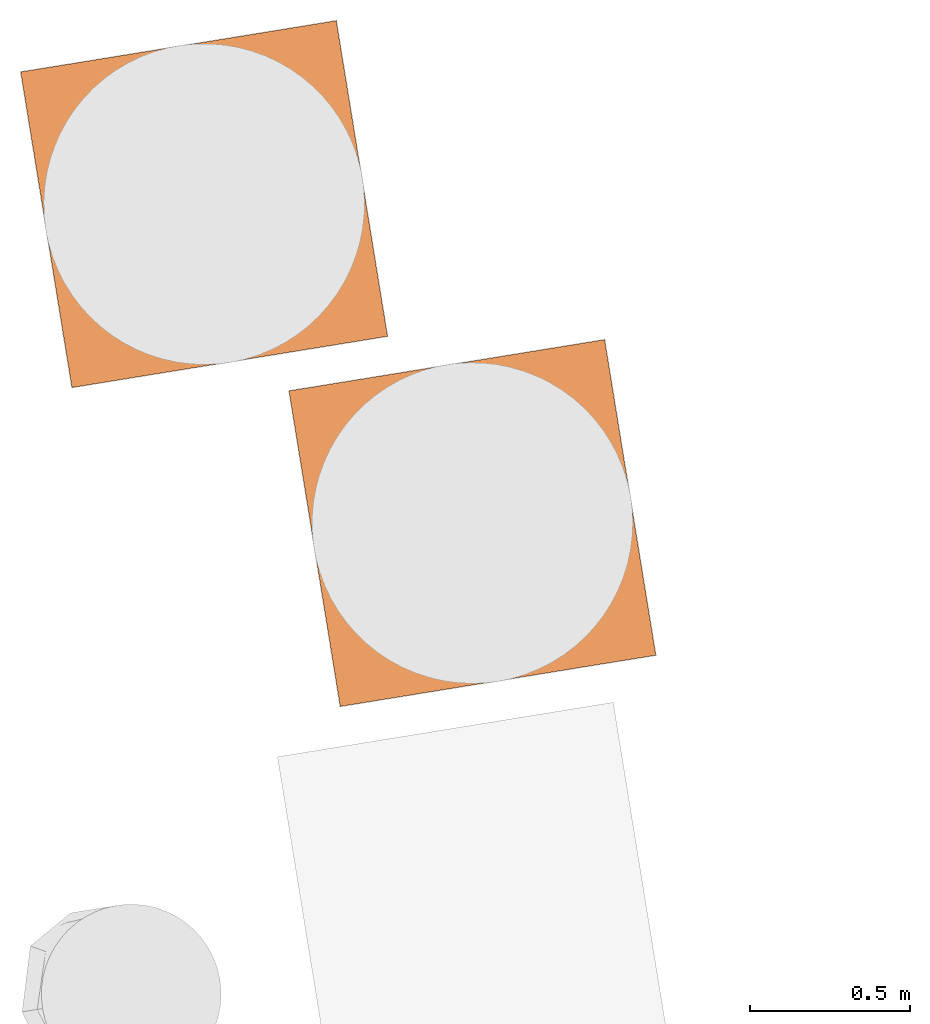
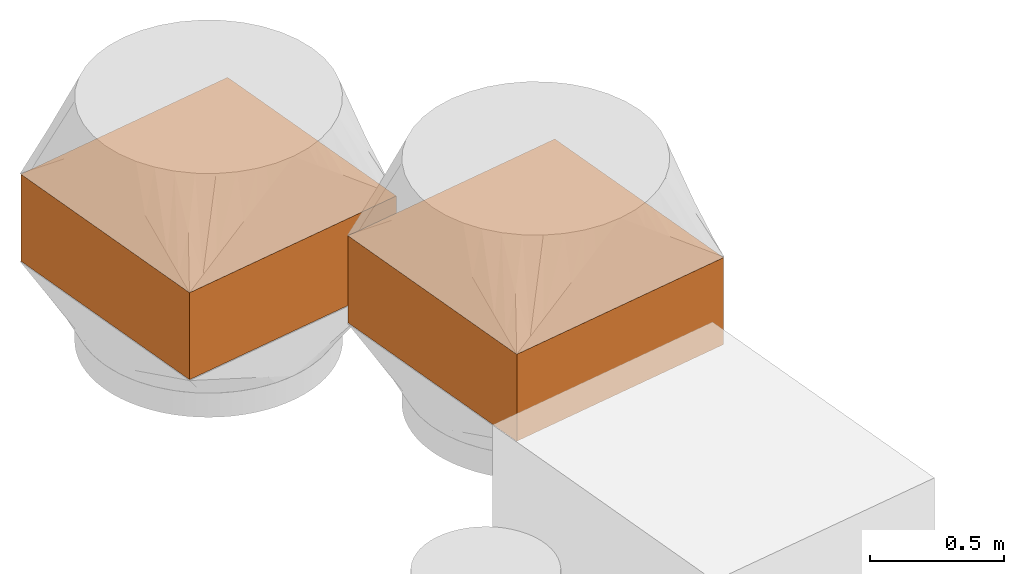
# One storey, part 6 of 6: 2 proxies.
"""IFC2X3 building model written with IfcOpenShell, lengths in millimetres."""

from ifc_helpers import new_model, entity, si_unit, converted_unit, derived_unit, direction, frame, origin, origin_with_axes, origin_2d_with_axis, place, context, subcontext, project, spatial, rectangle, extrude, source, transform, mapped, material, type_object, element, save


model = new_model("IFC2X3")

# Units and contexts
model_context = context("Model", 3, precision=0.01, world=origin(), true_north=direction((6.12323399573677e-17, 1.0)))
plan_context = context("Plan", 3, precision=1e-05, world=origin_with_axes())
body_context = subcontext(model_context, "Body", "Model", "MODEL_VIEW")
ifc_project = project(units=[converted_unit("PLANEANGLEUNIT", "DEGREE", entity("IfcPositiveLengthMeasure", 0.0174532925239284), si_unit("PLANEANGLEUNIT", "RADIAN"), dimensions=[0, 0, 0, 0, 0, 0, 0]), si_unit("AREAUNIT", "SQUARE_METRE"), si_unit("LENGTHUNIT", "METRE", prefix="MILLI"), si_unit("MASSUNIT", "GRAM", prefix="KILO"), si_unit("POWERUNIT", "WATT"), si_unit("PRESSUREUNIT", "PASCAL", prefix="KILO"), si_unit("FORCEUNIT", "NEWTON", prefix="KILO"), si_unit("ELECTRICVOLTAGEUNIT", "VOLT"), si_unit("ELECTRICCURRENTUNIT", "AMPERE"), si_unit("THERMODYNAMICTEMPERATUREUNIT", "DEGREE_CELSIUS"), si_unit("TIMEUNIT", "SECOND"), si_unit("VOLUMEUNIT", "CUBIC_METRE"), derived_unit("LINEARVELOCITYUNIT", [(si_unit("LENGTHUNIT", "METRE"), 1), (si_unit("TIMEUNIT", "SECOND"), -1)]), derived_unit("VOLUMETRICFLOWRATEUNIT", [(si_unit("VOLUMEUNIT", "CUBIC_METRE"), 1), (si_unit("TIMEUNIT", "SECOND"), -1)]), derived_unit("THERMALTRANSMITTANCEUNIT", [(si_unit("POWERUNIT", "WATT"), 1), (si_unit("THERMODYNAMICTEMPERATUREUNIT", "KELVIN"), -1), (si_unit("AREAUNIT", "SQUARE_METRE"), -1)]), derived_unit("SOUNDPRESSUREUNIT", [(si_unit("PRESSUREUNIT", "PASCAL"), 1)])], contexts=[model_context, plan_context])

# Site, building, storey
site_placement = place(None, frame((-0.00071070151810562, 0.00438415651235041, 0.0), z_axis=(0.0, 0.0, 1.0), x_axis=(-0.160236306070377, 0.987078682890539, 0.0)))
site = spatial("IfcSite", under=ifc_project, at=site_placement, Name="Default", CompositionType="ELEMENT")
building_placement = place(site_placement, origin_with_axes())
building = spatial("IfcBuilding", under=site, at=building_placement, CompositionType="ELEMENT")
storey_placement = place(building_placement, frame((0.0, 0.0, 48160.0), z_axis=(0.0, 0.0, 1.0), x_axis=(1.0, 0.0, 0.0)))
storey = spatial("IfcBuildingStorey", under=building, at=storey_placement, Name="Nivå C", CompositionType="ELEMENT", Elevation=48160.0)

# Proxies
ifc_material = material(Name="<Unnamed>")
building_element_proxy_type = type_object("IfcBuildingElementProxyType", Name="BRANNSPJELD - 1 - SZ010T:BRANNSPJELD -R E120-1000-1000 - SZ010T", PredefinedType="NOTDEFINED", material=ifc_material)
shared_shape = source(origin(), body_context, "Body", "SweptSolid", [
    extrude(rectangle(XDim=995.999999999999, YDim=396.0, at=origin_2d_with_axis()), frame((0.0, 0.0, -498.0), z_axis=(0.0, 0.0, 1.0), x_axis=(0.0, 1.0, 0.0)), (0.0, 0.0, 1.0), 995.999999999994),
])
for number, where, z_axis, x_axis in (
    (1, (777903.00966992, -596321.533015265, 2579.2463069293), (0.0, 1.0, 0.0), (0.0, 0.0, -1.0)),
    (2, (779017.739799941, -595655.667976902, 2549.99970332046), (0.999999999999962, -2.7755575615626e-17, 2.76210434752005e-07), (2.76210434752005e-07, -1.32348898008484e-23, -0.999999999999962)),
):
    element("IfcBuildingElementProxy", number, at=place(storey_placement, frame(where, z_axis=z_axis, x_axis=x_axis)), inside=storey, type_object=building_element_proxy_type, material=ifc_material, Name="BRANNSPJELD - 1 - SZ010T:BRANNSPJELD -R E120-1000-1000 - SZ010T", ObjectType="BRANNSPJELD - 1 - SZ010T:BRANNSPJELD -R E120-1000-1000 - SZ010T", context=body_context, shape_type="MappedRepresentation", body=[
        mapped(shared_shape, transform((0.0, 0.0, 0.0), scale=1.0)),
    ])

save(model, "model.ifc")
